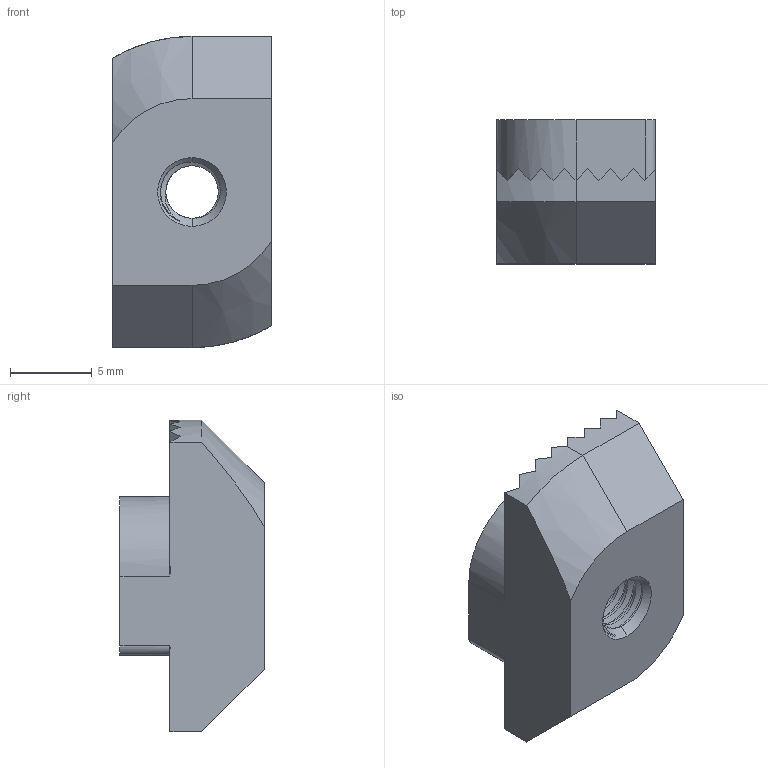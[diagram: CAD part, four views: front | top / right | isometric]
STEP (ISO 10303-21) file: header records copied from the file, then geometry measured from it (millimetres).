
FILE_DESCRIPTION (( 'STEP AP203' ), '1' );
FILE_NAME ('2008.010.001.STEP', '2023-05-24T06:56:22', ( '' ), ( '' ), 'SwSTEP 2.0', 'SolidWorks 2022', '' );
FILE_SCHEMA (( 'CONFIG_CONTROL_DESIGN' ));
Length unit declared in the file: millimetre
Products named in the file (1): 2008.010.001
Bounding box: 9.7 x 8.8 x 19 mm (x, y, z)
Volume: 1028.6 mm3; surface area: 872.5 mm2
Topology: 1 solids, 1 shells, 76 faces, 216 edges, 142 vertices
Faces by surface type: plane 38, cylinder 29, cone 6, bspline 3
Entity records: 5126 total; most frequent: CARTESIAN_POINT 3324, ORIENTED_EDGE 432, DIRECTION 288, EDGE_CURVE 216, VERTEX_POINT 142, LINE 112, VECTOR 112, AXIS2_PLACEMENT_3D 88
